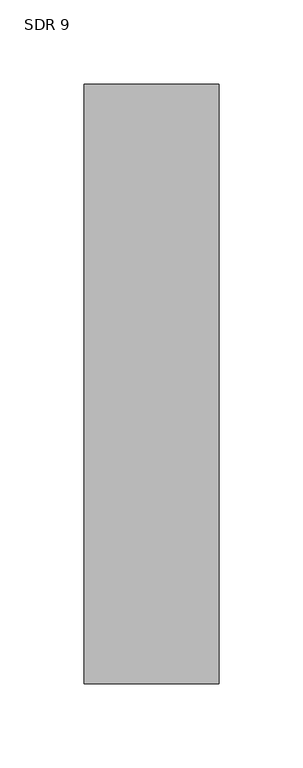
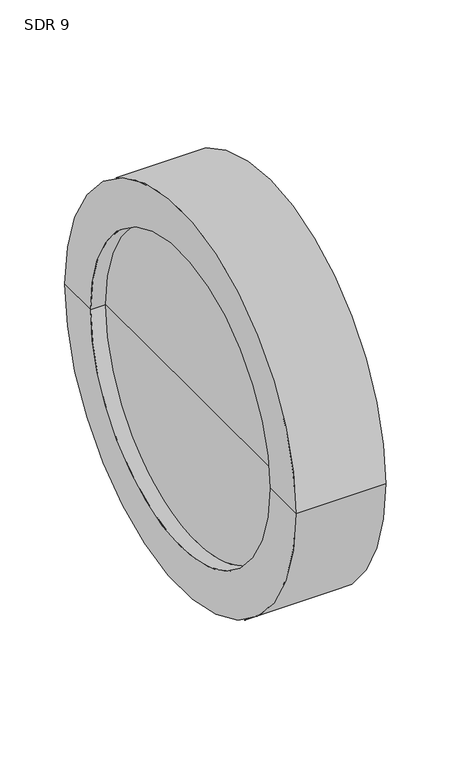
"""IFC4 building model written with IfcOpenShell, lengths in millimetres: pipe fitting geometry, Aquatherm - End Cap Butt-Weld : SDR 9."""

import ifcopenshell
import ifcopenshell.guid

model = None  # the IFC model being written
_history = None  # IfcOwnerHistory: only IFC2X3 demands one
_inside = {}  # id of a spatial element -> (the spatial element, [elements in it])
_under = {}  # id of a project, library or spatial element -> (it, [spatial elements below it])
_declared = {}  # id of a project -> (the project, [libraries it declares])
_typed = {}  # id of a type object -> (the type object, [elements of that type])
_made_of = {}  # id of a material, layer set ... -> (it, [elements and type objects made of it])


def new_model(schema):
    """Start an empty IFC model of exactly this schema.

    Asked for "IFC4X3", IfcOpenShell would pick the latest addendum, in which some entities
    have other attributes; the version numbers below select the first issue.
    IFC2X3 requires an IfcOwnerHistory on every rooted entity: one is made here for all.
    """
    global model, _history
    if schema == "IFC4X3":
        model = ifcopenshell.file(schema_version=(4, 3, 0, 0))
    else:
        model = ifcopenshell.file(schema=schema)
    _inside.clear()
    _under.clear()
    _declared.clear()
    _typed.clear()
    _made_of.clear()
    _history = None
    if model.schema == "IFC2X3":
        org = make("IfcOrganization", Name="unknown")
        user = make(
            "IfcPersonAndOrganization",
            ThePerson=make("IfcPerson", FamilyName="unknown"),
            TheOrganization=org,
        )
        app = make(
            "IfcApplication",
            ApplicationDeveloper=org,
            Version="unknown",
            ApplicationFullName="unknown",
            ApplicationIdentifier="unknown",
        )
        _history = make(
            "IfcOwnerHistory",
            OwningUser=user,
            OwningApplication=app,
            ChangeAction="ADDED",
            CreationDate=0,
        )
    return model


def make(cls, **values):
    """One entity of the class cls with the attributes given. An attribute that is None is left unset."""
    return model.create_entity(
        cls, **{name: value for name, value in values.items() if value is not None}
    )


def rooted(cls, **values):
    """An entity with a GlobalId (a new one), such as an element, a storey or a relation."""
    return make(cls, GlobalId=ifcopenshell.guid.new(), OwnerHistory=_history, **values)


def si_unit(unit_type, name, prefix=None):
    """IfcSIUnit, for example si_unit("LENGTHUNIT", "METRE", prefix="MILLI")."""
    return make("IfcSIUnit", UnitType=unit_type, Prefix=prefix, Name=name)


def assignment(units):
    """IfcUnitAssignment: the units of a project."""
    return None if units is None else make("IfcUnitAssignment", Units=units)


def point(xyz):
    """IfcCartesianPoint."""
    return None if xyz is None else make("IfcCartesianPoint", Coordinates=xyz)


def direction(xyz):
    """IfcDirection."""
    return None if xyz is None else make("IfcDirection", DirectionRatios=xyz)


def frame(location, z_axis=None, x_axis=None):
    """IfcAxis2Placement3D, a coordinate frame: its origin and axes. An axis left out is left unset."""
    return make(
        "IfcAxis2Placement3D",
        Location=point(location),
        Axis=direction(z_axis),
        RefDirection=direction(x_axis),
    )


def origin():
    """The frame at (0, 0, 0) with its axes left unset."""
    return frame((0.0, 0.0, 0.0))


def place(relative_to, where):
    """IfcLocalPlacement: puts the frame where relative to a parent placement (None: the world)."""
    return make(
        "IfcLocalPlacement", PlacementRelTo=relative_to, RelativePlacement=where
    )


def context(
    kind, dimensions, precision=None, world=None, true_north=None, identifier=None
):
    """IfcGeometricRepresentationContext, for example the 3D "Model" context."""
    return make(
        "IfcGeometricRepresentationContext",
        ContextIdentifier=identifier,
        ContextType=kind,
        CoordinateSpaceDimension=dimensions,
        Precision=precision,
        WorldCoordinateSystem=world,
        TrueNorth=true_north,
    )


def project(units=None, contexts=None):
    """IfcProject with its units and contexts."""
    return rooted(
        "IfcProject",
        Name="project",
        RepresentationContexts=contexts,
        UnitsInContext=assignment(units),
    )


def spatial(cls, under=None, at=None, **own):
    """A site, building, storey or space (cls), placed at a placement, below another one or the project."""
    s = rooted(cls, ObjectPlacement=at, **own)
    if under is not None:
        _under.setdefault(under.id(), (under, []))[1].append(s)
    return s


def polyline(points):
    """IfcPolyline through the points."""
    return make("IfcPolyline", Points=[point(p) for p in points])


def circle_curve(where, radius):
    """IfcCircle in the frame where."""
    return make("IfcCircle", Position=where, Radius=radius)


def shape(context_of_items, identifier, shape_type, items):
    """IfcShapeRepresentation: the items that make up one representation, for example the "Body"."""
    return make(
        "IfcShapeRepresentation",
        ContextOfItems=context_of_items,
        RepresentationIdentifier=identifier,
        RepresentationType=shape_type,
        Items=items,
    )


def source(mapping_origin, context_of_items, identifier, shape_type, items):
    """IfcRepresentationMap: a shape defined once, which mapped items show again and again."""
    return make(
        "IfcRepresentationMap",
        MappingOrigin=mapping_origin,
        MappedRepresentation=shape(context_of_items, identifier, shape_type, items),
    )


def transform(
    local_origin,
    x_axis=None,
    y_axis=None,
    z_axis=None,
    scale=None,
    scale2=None,
    scale3=None,
    uniform=True,
):
    """IfcCartesianTransformationOperator3D, or its non-uniform kind. x_axis, y_axis, z_axis: its Axis1, 2, 3."""
    if uniform:
        return make(
            "IfcCartesianTransformationOperator3D",
            Axis1=direction(x_axis),
            Axis2=direction(y_axis),
            LocalOrigin=point(local_origin),
            Scale=scale,
            Axis3=direction(z_axis),
        )
    return make(
        "IfcCartesianTransformationOperator3DnonUniform",
        Axis1=direction(x_axis),
        Axis2=direction(y_axis),
        LocalOrigin=point(local_origin),
        Scale=scale,
        Axis3=direction(z_axis),
        Scale2=scale2,
        Scale3=scale3,
    )


def mapped(mapping_source, mapping_target):
    """IfcMappedItem: shows the shape of a source again, moved by a transform."""
    return make(
        "IfcMappedItem", MappingSource=mapping_source, MappingTarget=mapping_target
    )


def made_of(thing, what):
    """Note that an element or type object is made of a material, layer set ...; save() writes the relation."""
    if what is not None:
        _made_of.setdefault(what.id(), (what, []))[1].append(thing)
    return thing


def element(
    cls,
    number,
    at=None,
    inside=None,
    cuts=None,
    type_object=None,
    material=None,
    context=None,
    identifier="Body",
    shape_type=None,
    held_by="IfcProductDefinitionShape",
    body=None,
    shapes=None,
    **own,
):
    """One element of the class cls, such as IfcWall. Its Tag is "e" and its number.

    at: its placement. inside: the storey or other place that contains it. cuts: it is an
    opening in that element (IfcRelVoidsElement). A single representation is given by context,
    identifier, shape_type and body (its items); several are given by shapes. held_by: the class
    of the entity that holds the representations. save() writes the other relations.
    """
    e = rooted(cls, Tag="e%d" % number, ObjectPlacement=at, **own)
    if body is not None:
        shapes = [shape(context, identifier, shape_type, body)]
    if shapes is not None:
        e.Representation = make(held_by, Representations=shapes)
    if inside is not None:
        _inside.setdefault(inside.id(), (inside, []))[1].append(e)
    if cuts is not None:
        rooted(
            "IfcRelVoidsElement", RelatingBuildingElement=cuts, RelatedOpeningElement=e
        )
    if type_object is not None:
        _typed.setdefault(type_object.id(), (type_object, []))[1].append(e)
    return made_of(e, material)


def aggregate(whole, parts):
    """IfcRelAggregates: a whole, such as a stair, and the parts it consists of."""
    return rooted("IfcRelAggregates", RelatingObject=whole, RelatedObjects=parts)


def save(model, path):
    """Write the relations noted so far, then the file.

    IfcRelAggregates (storeys below a building ...), IfcRelContainedInSpatialStructure (elements
    in a storey), IfcRelDefinesByType, IfcRelAssociatesMaterial and IfcRelDeclares: one each for
    every whole, place, type object, material and project.
    """
    for whole, parts in _under.values():
        aggregate(whole, parts)
    for where, things in _inside.values():
        rooted(
            "IfcRelContainedInSpatialStructure",
            RelatedElements=things,
            RelatingStructure=where,
        )
    for kind, things in _typed.values():
        rooted("IfcRelDefinesByType", RelatedObjects=things, RelatingType=kind)
    for what, things in _made_of.values():
        rooted("IfcRelAssociatesMaterial", RelatedObjects=things, RelatingMaterial=what)
    for by, libraries in _declared.values():
        rooted("IfcRelDeclares", RelatingContext=by, RelatedDefinitions=libraries)
    model.write(path)


def plane_surface(at):
    """IfcPlane: the flat surface through the origin of the frame at, square to its z axis."""
    return make("IfcPlane", Position=at)


def cylinder_surface(at, radius):
    """IfcCylindricalSurface: all points at the distance radius from the z axis of the frame at."""
    return make("IfcCylindricalSurface", Position=at, Radius=radius)


def revolved_surface(curve, axis_point, axis_direction):
    """IfcSurfaceOfRevolution: the curve turned about the line through axis_point along axis_direction."""
    return make(
        "IfcSurfaceOfRevolution",
        SweptCurve=make("IfcArbitraryOpenProfileDef", ProfileType="CURVE", Curve=curve),
        AxisPosition=make("IfcAxis1Placement", Location=point(axis_point), Axis=direction(axis_direction)),
    )


def advanced_brep(points, edges, surfaces, faces):
    """IfcAdvancedBrep: a solid bounded by faces that lie on surfaces and meet in shared edges.

    An edge is (start, end): straight between two places in points (the first is 0);
    or (start, end, curve); or (start, end, curve, False) where it runs against its curve.
    A face is (place in surfaces, loops), or (place, loops, False) where it looks against
    its surface's normal. A loop lists edges by number (the first is 1), with a minus sign
    where the edge is run from its end to its start. The first loop is the outer one.
    """
    corners = [point(p) for p in points]
    vertices = [make("IfcVertexPoint", VertexGeometry=c) for c in corners]
    made = []
    for start, end, *more in edges:
        made.append(
            make(
                "IfcEdgeCurve",
                EdgeStart=vertices[start],
                EdgeEnd=vertices[end],
                EdgeGeometry=more[0] if more else make("IfcPolyline", Points=[corners[start], corners[end]]),
                SameSense=more[1] if len(more) > 1 else True,
            )
        )
    hull = []
    for where, loops, *sense in faces:
        bounds = []
        for j, loop in enumerate(loops):
            ring = [make("IfcOrientedEdge", EdgeElement=made[abs(k) - 1], Orientation=k > 0) for k in loop]
            bounds.append(
                make(
                    "IfcFaceOuterBound" if j == 0 else "IfcFaceBound",
                    Bound=make("IfcEdgeLoop", EdgeList=ring),
                    Orientation=True,
                )
            )
        hull.append(make("IfcAdvancedFace", Bounds=bounds, FaceSurface=surfaces[where], SameSense=sense[0] if sense else True))
    return make("IfcAdvancedBrep", Outer=make("IfcClosedShell", CfsFaces=hull))


def sdr_9_5b1b12d4(model_context):
    return source(origin(), model_context, "Body", "AdvancedBrep", [
        advanced_brep(
        [(80.01, -177.8, 0.0), (80.01, 177.8, 0.0), (80.01, 0.0, 0.0), (13.462, 0.0, 0.0), (13.462, 138.43, 0.0), (13.462, -138.43, 0.0), (0.0, 138.43, 0.0), (0.0, -138.43, 0.0), (0.0, 177.8, 0.0), (0.0, -177.8, 0.0)],
        [
            (0, 1, circle_curve(frame((80.01, 0.0, 0.0), z_axis=(1.0, 0.0, 0.0), x_axis=(0.0, 1.0, 0.0)), 177.8)),
            (1, 2),
            (2, 0),
            (1, 0, circle_curve(frame((80.01, 0.0, 0.0), z_axis=(1.0, 0.0, 0.0), x_axis=(0.0, 1.0, 0.0)), 177.8)),
            (3, 4),
            (4, 5, circle_curve(frame((13.462, 0.0, 0.0), z_axis=(-1.0, 0.0, 0.0), x_axis=(0.0, 1.0, 0.0)), 138.43)),
            (5, 3),
            (5, 4, circle_curve(frame((13.462, 0.0, 0.0), z_axis=(-1.0, 0.0, 0.0), x_axis=(0.0, 1.0, 0.0)), 138.43)),
            (4, 6),
            (6, 7, circle_curve(frame((0.0, 0.0, 0.0), z_axis=(-1.0, 0.0, 0.0), x_axis=(0.0, 1.0, 0.0)), 138.43)),
            (7, 5),
            (7, 6, circle_curve(frame((0.0, 0.0, 0.0), z_axis=(-1.0, 0.0, 0.0), x_axis=(0.0, 1.0, 0.0)), 138.43)),
            (6, 8),
            (8, 9, circle_curve(frame((0.0, 0.0, 0.0), z_axis=(-1.0, 0.0, 0.0), x_axis=(0.0, 1.0, 0.0)), 177.8)),
            (9, 7),
            (9, 8, circle_curve(frame((0.0, 0.0, 0.0), z_axis=(-1.0, 0.0, 0.0), x_axis=(0.0, 1.0, 0.0)), 177.8)),
            (8, 1),
            (0, 9),
        ],
        [
            plane_surface(frame((80.01, 0.0, 0.0), z_axis=(1.0, 0.0, 0.0), x_axis=(0.0, 1.0, 0.0))),
            plane_surface(frame((13.462, 0.0, 0.0), z_axis=(-1.0, 0.0, 0.0), x_axis=(0.0, 1.0, 0.0))),
            revolved_surface(polyline([(0.0, 138.43, 0.0), (13.461999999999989, 138.43, 0.0)]), (-1363.98, 0.0, 0.0), (-1.0, 0.0, 0.0)),
            plane_surface(frame((0.0, 0.0, 0.0), z_axis=(-1.0, 0.0, 0.0), x_axis=(0.0, 1.0, 0.0))),
            cylinder_surface(frame((-1363.98, 0.0, 0.0), z_axis=(-1.0, 0.0, 0.0), x_axis=(0.0, 1.0, 0.0)), 177.8),
        ],
        [
            (0, [[1, 2, 3]]),
            (0, [[4, -3, -2]]),
            (1, [[5, 6, 7]]),
            (1, [[-7, 8, -5]]),
            (2, [[-6, 9, 10, 11]]),
            (2, [[-8, -11, 12, -9]]),
            (3, [[-10, 13, 14, 15]]),
            (3, [[-12, -15, 16, -13]]),
            (4, [[-14, 17, -1, 18]]),
            (4, [[-16, -18, -4, -17]]),
        ],
    ),
    ])


if __name__ == "__main__":
    model = new_model("IFC4")
    model_context = context("Model", 3, world=origin())
    ifc_project = project(units=[si_unit("LENGTHUNIT", "METRE", prefix="MILLI")], contexts=[model_context])
    site = spatial("IfcSite", under=ifc_project)
    building = spatial("IfcBuilding", under=site)
    placement = place(None, origin())
    sdr_9_shape = sdr_9_5b1b12d4(model_context)
    element("IfcPipeFitting", 1, ObjectType="Aquatherm - End Cap Butt-Weld : SDR 9", at=placement, inside=building, context=model_context, shape_type="MappedRepresentation", body=[
        mapped(sdr_9_shape, transform((0.0, 0.0, 0.0), x_axis=(1.0, 0.0, 0.0), y_axis=(0.0, 1.0, 0.0), z_axis=(0.0, 0.0, 1.0))),
    ])
    save(model, "model.ifc")
